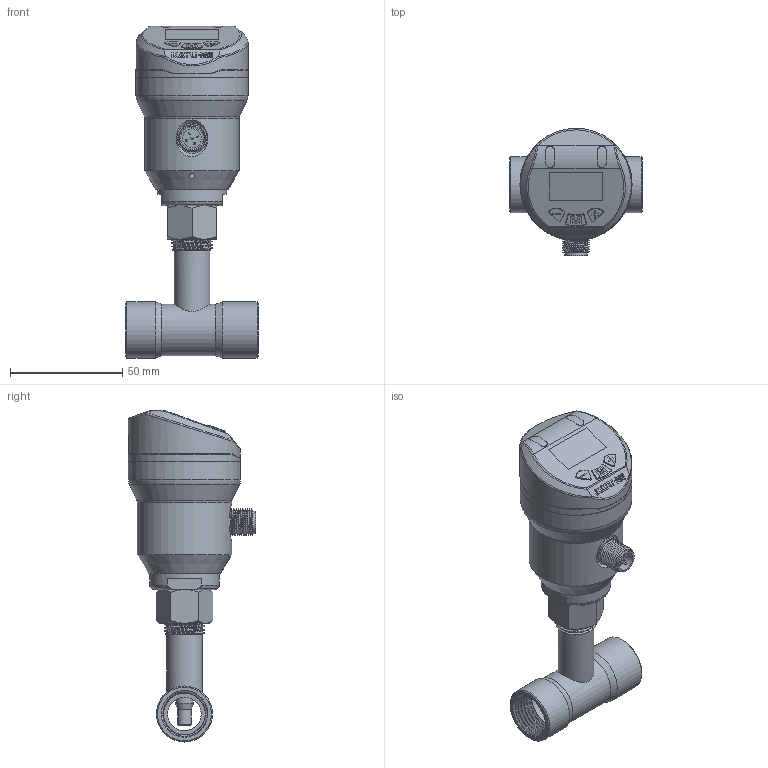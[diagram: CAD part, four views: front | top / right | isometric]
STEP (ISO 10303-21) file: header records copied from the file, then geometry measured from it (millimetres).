
FILE_DESCRIPTION( (''), '2;1');
FILE_NAME( 'QEKE_M18_L60_G1-2_tee.step', '2026-06-25T11:18:40+08:00', (''), (''), '', '', '');
FILE_SCHEMA (('AP203_CONFIGURATION_CONTROLLED_3D_DESIGN_OF_MECHANICAL_PARTS_AND_ASSEMBLIES_MIM_LF { 1 0 10303 403 2 1 2}'));
Length unit declared in the file: millimetre
Products named in the file (1): QEKE M18_L60_G1-2_tee
Bounding box: 59 x 56.7 x 148.11 mm (x, y, z)
Volume: 111756.8 mm3; surface area: 47315 mm2
Topology: 11 solids, 13 shells, 640 faces, 1594 edges, 1027 vertices
Faces by surface type: plane 327, cylinder 150, cone 63, bspline 57, torus 33, sphere 10
Full cylindrical faces by diameter (mm): 1 x10, 2.5 x1, 2.7 x5, 3.1 x1, 3.5 x2, 6 x2, 6.5 x1, 8 x1, 8.4 x1, 9.7 x1, 9.8 x1, 10.1 x1, 10.2 x2, 11 x2, 11.6 x1, 12 x2, 13.4 x1, 13.7 x1, 15 x1, 15.4 x1, 16 x1, 16.1 x1, 16.5 x6, 21 x2, 23 x1, 25 x2, 31 x1, 42 x1, 48 x1, 50 x3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
Entity records: 28046 total; most frequent: CARTESIAN_POINT 13125, ORIENTED_EDGE 2838, DIRECTION 2772, EDGE_CURVE 1419, AXIS2_PLACEMENT_3D 1010, VERTEX_POINT 961, EDGE_LOOP 796, LINE 752
